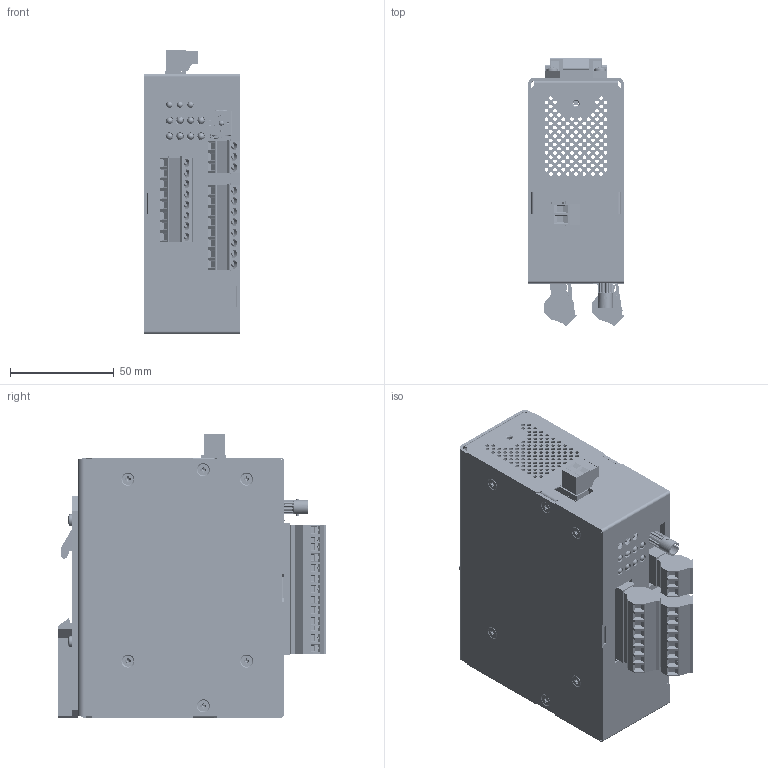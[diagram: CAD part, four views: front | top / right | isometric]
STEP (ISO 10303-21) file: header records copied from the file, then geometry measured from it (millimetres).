
FILE_DESCRIPTION(/* description */ ('STEP AP242 Edition 2','CAx-IF Rec.Pracs.---Representation and Presentation of Product Manufacturing Information (PMI)---4.0---2014-10-13','CAx-IF Rec.Pracs.---3D Tessellated Geometry---0.4---2014-09-14','2;1','CAx-IF Rec.Pracs.---User Defined Attributes---1.5---2016-08-15'),/* implementation_level */ '2;1');
FILE_NAME(/* name */ '6982544bf15916a9a6bd54f2',/* time_stamp */ '2026-02-03T20:02:23Z',/* author */ (''),/* organization */ (''),/* preprocessor_version */ 'ST-DEVELOPER v20',/* originating_system */ 'ONSHAPE BY PTC INC, 1.210',/* authorisation */ ' ');
FILE_SCHEMA (('AP242_MANAGED_MODEL_BASED_3D_ENGINEERING_MIM_LF { 1 0 10303 442 3 1 4 }'));
Products named in the file (31): 8 Channel Contact Closure, Receiver; smstb_2.5-8-st-5.08; Flat countersunk head (100) machine screw #4-40 x 0.25; 568-0102-222F; 564-0200-132F; C-796638-8; Pan head machine screw #4-40 x 0.25; C-796634-2; C-796638-3; 30mm DIN Clip <1>; 30mm DIN Clip; smstb_2.5-3-st-5.08; C-796638-2; H-132 <1>; PEM CLS-440-0  ; PEM CLS-632-0  ; H-132; H-013 <1>; PEM SMPS-440; Rear Housing; ST <1>; HFBR-1414Z_HFBR-1414Z
Assembly tree (57 placements, depth 3):
  8 Channel Contact Closure, Receiver
    smstb_2.5-8-st-5.08  x2
    Flat countersunk head (100) machine screw #4-40 x 0.25  x12
    568-0102-222F  x2
    564-0200-132F
    C-796638-8  x2
    Pan head machine screw #4-40 x 0.25  x4
    C-796634-2
    C-796638-3
    30mm DIN Clip <1>
      30mm DIN Clip
    smstb_2.5-3-st-5.08
    C-796638-2
    H-132 <1>
      PEM CLS-440-0    x8
      PEM CLS-632-0  
      H-132
    H-013 <1>
      PEM SMPS-440  x4
      Rear Housing
    ST <1>
      HFBR-1414Z_HFBR-1414Z
      HFBR-1414Z_HFBR-1414Z
      HFBR-1414Z_HFBR-1414Z
      HFBR-1414Z_HFBR-1414Z
      HFBR-1414Z_HFBR-1414Z
      HFBR-1414Z_HFBR-1414Z
      HFBR-1414Z_HFBR-1414Z
      HFBR-1414Z_HFBR-1414Z
      HFBR-1414Z_HFBR-1414Z
      HFBR-1414Z_HFBR-1414Z
Bounding box: 46.23 x 129.17 x 137.02 mm (x, y, z)
Volume: 101458.3 mm3; surface area: 124898.8 mm2
Topology: 53 solids, 58 shells, 4889 faces, 13266 edges, 8748 vertices
Faces by surface type: plane 3514, cylinder 855, cone 195, bspline 153, torus 130, sphere 42
Full cylindrical faces by diameter (mm): 0.46 x4, 1.4 x19, 1.5 x2, 1.905 x263, 2.156 x12, 2.5 x1, 2.642 x1, 2.8 x16, 2.845 x16, 2.997 x3, 3.2 x8, 3.251 x12, 3.3 x10, 3.363 x8, 3.454 x8, 3.783 x19, 3.81 x11, 4 x22, 4.191 x12, 4.216 x12, 4.75 x1, 4.763 x1, 5.563 x4, 5.588 x4, 5.6 x1, 6.35 x8, 7 x1, 7.112 x1
Entity records: 80294 total; most frequent: CARTESIAN_POINT 13359, DIRECTION 12258, ORIENTED_EDGE 11822, EDGE_CURVE 5911, VERTEX_POINT 4155, LINE 4106, VECTOR 4106, AXIS2_PLACEMENT_3D 4076
